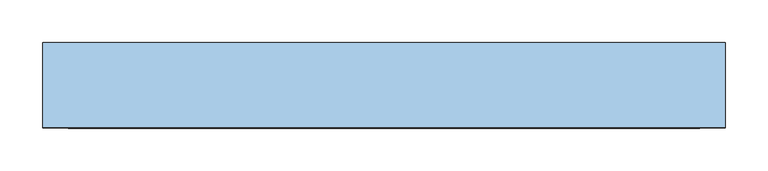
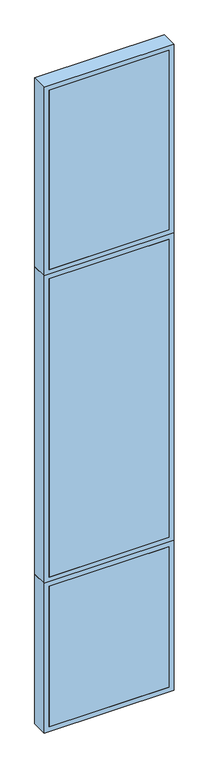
"""IFC4 building model written with IfcOpenShell, lengths in millimetres: window geometry, TRP_CP_ARC_FI_V1 : VE_VF2_80_420."""

from ifc_helpers import new_model, si_unit, frame, origin, place, context, project, spatial, polyline, outline, extrude, source, transform, mapped, element, save


def window_8ab5537a(model_context):
    return source(origin(), model_context, "Body", "SweptSolid", [
        extrude(outline(polyline([(370.0, -50.0), (-370.0, -50.0), (-370.0, -30.0), (370.0, -30.0), (370.0, -50.0)])), frame((0.0, 0.0, 30.0), z_axis=(0.0, 0.0, 1.0), x_axis=(1.0, 0.0, 0.0)), (0.0, 0.0, 1.0), 913.0),
        extrude(outline(polyline([(973.0, 400.0), (973.0, -400.0), (0.0, -400.0), (0.0, 400.0), (973.0, 400.0)]), holes=[polyline([(30.0, 370.0), (30.0, -370.0), (943.0, -370.0), (943.0, 370.0), (30.0, 370.0)])]), frame((0.0, -50.0, 0.0), z_axis=(0.0, 1.0, 0.0), x_axis=(0.0, 0.0, 1.0)), (0.0, 0.0, 1.0), 100.0),
        extrude(outline(polyline([(2973.0, 400.0), (2973.0, -400.0), (973.0, -400.0), (973.0, 400.0), (2973.0, 400.0)]), holes=[polyline([(1003.0, 370.0), (1003.0, -370.0), (2943.0, -370.0), (2943.0, 370.0), (1003.0, 370.0)])]), frame((0.0, -50.0, 0.0), z_axis=(0.0, 1.0, 0.0), x_axis=(0.0, 0.0, 1.0)), (0.0, 0.0, 1.0), 100.0),
        extrude(outline(polyline([(370.0, -50.0), (-370.0, -50.0), (-370.0, -30.0), (370.0, -30.0), (370.0, -50.0)])), frame((0.0, 0.0, 1003.0), z_axis=(0.0, 0.0, 1.0), x_axis=(1.0, 0.0, 0.0)), (0.0, 0.0, 1.0), 1940.0),
        extrude(outline(polyline([(4200.0, 400.0), (4200.0, -400.0), (2973.0, -400.0), (2973.0, 400.0), (4200.0, 400.0)]), holes=[polyline([(3003.0, 370.0), (3003.0, -370.0), (4170.0, -370.0), (4170.0, 370.0), (3003.0, 370.0)])]), frame((0.0, -50.0, 0.0), z_axis=(0.0, 1.0, 0.0), x_axis=(0.0, 0.0, 1.0)), (0.0, 0.0, 1.0), 100.0),
        extrude(outline(polyline([(370.0, -50.0), (-370.0, -50.0), (-370.0, -30.0), (370.0, -30.0), (370.0, -50.0)])), frame((0.0, 0.0, 3003.0), z_axis=(0.0, 0.0, 1.0), x_axis=(1.0, 0.0, 0.0)), (0.0, 0.0, 1.0), 1167.0),
    ])


if __name__ == "__main__":
    model = new_model("IFC4")
    model_context = context("Model", 3, world=origin())
    ifc_project = project(units=[si_unit("LENGTHUNIT", "METRE", prefix="MILLI")], contexts=[model_context])
    site = spatial("IfcSite", under=ifc_project)
    building = spatial("IfcBuilding", under=site)
    placement = place(None, origin())
    window_shape = window_8ab5537a(model_context)
    element("IfcWindow", 1, ObjectType="TRP_CP_ARC_FI_V1 : VE_VF2_80_420", at=placement, inside=building, context=model_context, shape_type="MappedRepresentation", body=[
        mapped(window_shape, transform((0.0, 0.0, 0.0), x_axis=(1.0, 0.0, 0.0), y_axis=(0.0, 1.0, 0.0), z_axis=(0.0, 0.0, 1.0))),
    ])
    save(model, "model.ifc")
